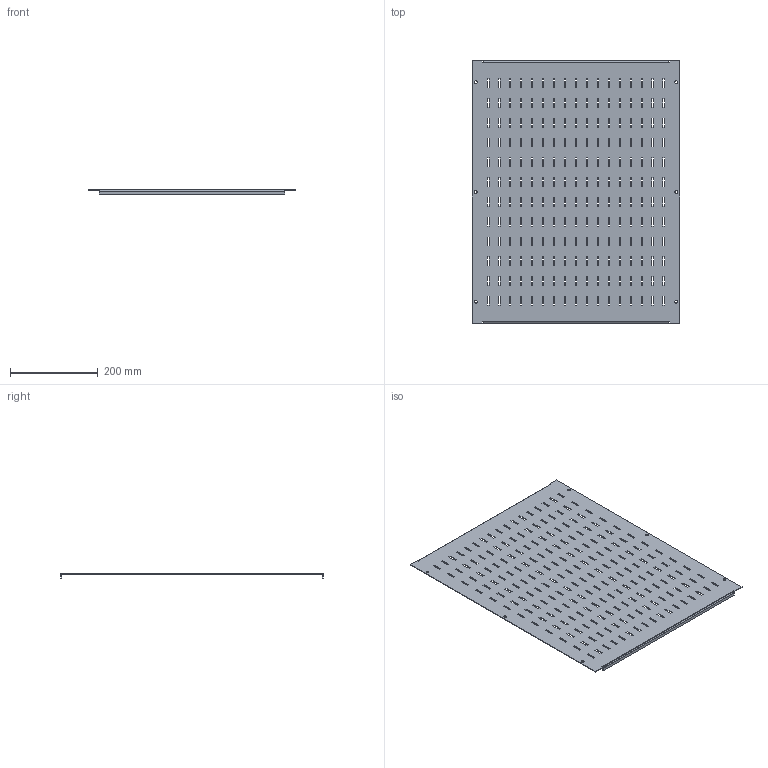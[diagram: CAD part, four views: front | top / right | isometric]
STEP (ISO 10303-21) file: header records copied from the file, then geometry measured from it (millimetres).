
FILE_DESCRIPTION(('STEP AP203'), '1');
FILE_NAME('Ïëàñòðîí ïåðôîðèðîâàííûé 600õ600 ìì OptiBox M 419465 ÊÝÀÇ', '', ('UNSPECIFIED'), ('UNSPECIFIED'), 'C3D Converter', 'C3D Toolkit', '');
FILE_SCHEMA(('CONFIG_CONTROL_DESIGN'));
Length unit declared in the file: millimetre
Bounding box: 472 x 597 x 10 mm (x, y, z)
Volume: 380245.8 mm3; surface area: 560154.5 mm2
Topology: 1 solids, 1 shells, 856 faces, 2546 edges, 1692 vertices
Faces by surface type: plane 846, cylinder 10
Full cylindrical faces by diameter (mm): 6.3 x6
Entity records: 28932 total; most frequent: CARTESIAN_POINT 5089, ORIENTED_EDGE 5080, DIRECTION 4274, EDGE_CURVE 2540, LINE 2520, VECTOR 2520, VERTEX_POINT 1692, EDGE_LOOP 1282
